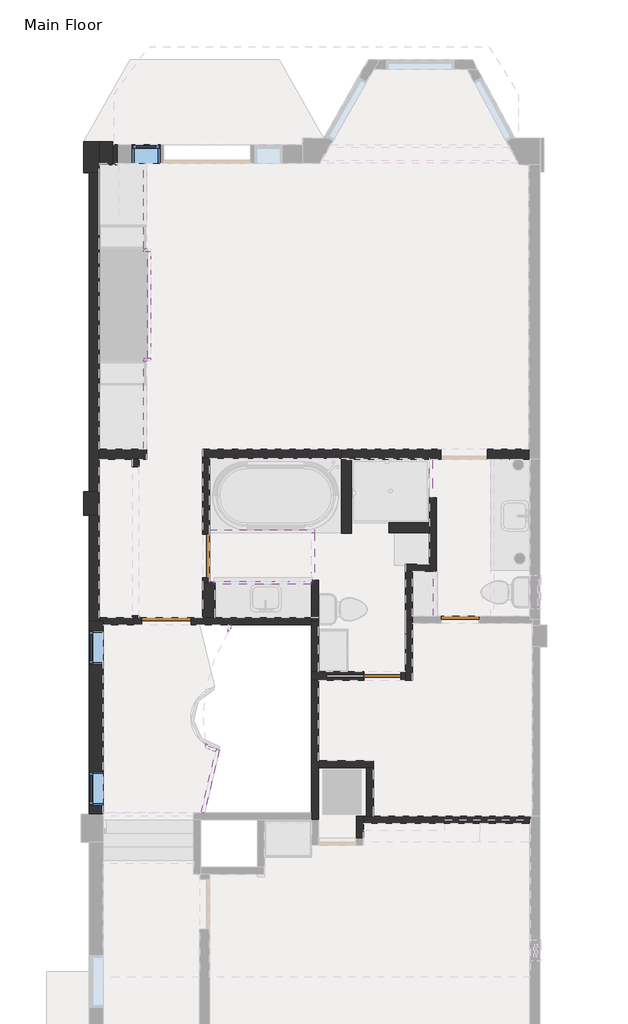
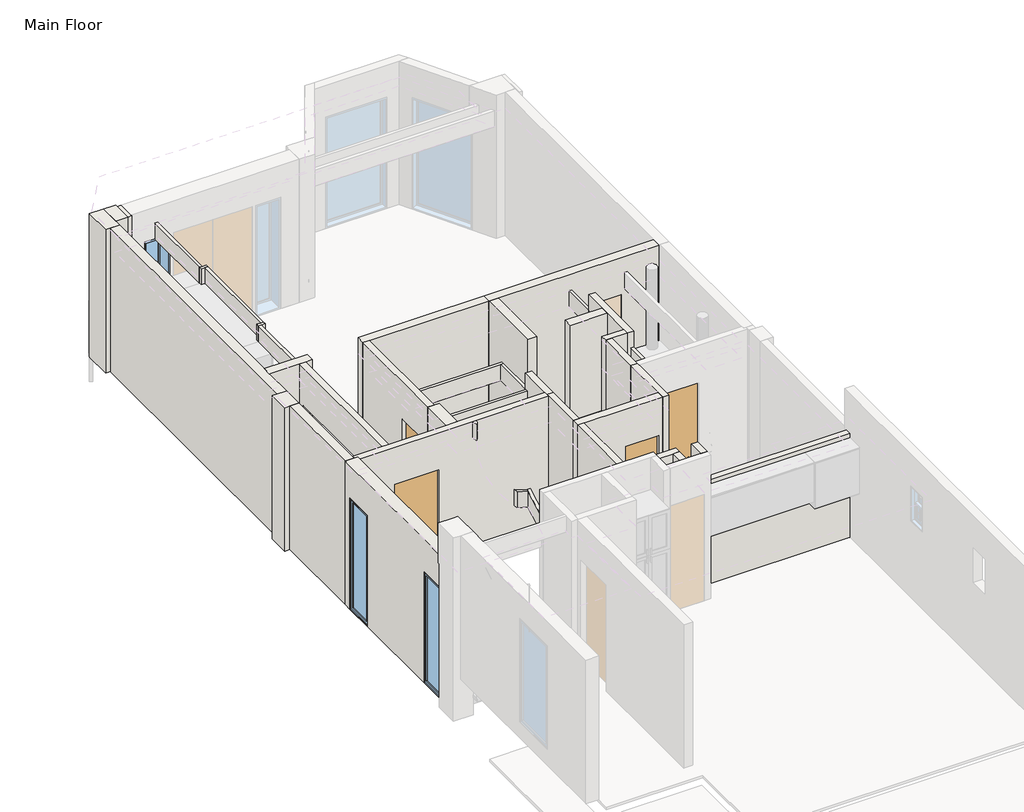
# One storey, part 2 of 4: 41 walls, 4 doors, 3 windows.
"""IFC4 building model written with IfcOpenShell, lengths in millimetres."""

from ifc_helpers import new_model, si_unit, point, frame, frame_2d, origin, origin_with_axes, place, context, project, spatial, polyline, circle_curve, trimmed, segment, composite_curve, outline, extrude, faceted_brep, transform, mapped, element, save
from ifc_brep_helpers import plane_surface, cylinder_surface, revolved_surface, advanced_brep
from components import door_b2eef15f, door_e9feb998, door_2ab74324, door_ba797397, default_1_d99bf27f, default_1_ecde31a0

model = new_model("IFC4")

# Units and contexts
model_context = context("Model", 3, world=origin())
ifc_project = project(units=[si_unit("LENGTHUNIT", "METRE", prefix="MILLI")], contexts=[model_context])

# Site, building, storey
site = spatial("IfcSite", under=ifc_project)
building = spatial("IfcBuilding", under=site)
storey = spatial("IfcBuildingStorey", under=building, Name="Main Floor", Elevation=0.0)

# Doors
placement = place(None, origin())
door_shape = door_b2eef15f(model_context)
element("IfcDoor", 1, ObjectType="Planitar - Single Door_Flush Panel : 2'-0\" x 6'-8\"", at=placement, inside=storey, context=model_context, shape_type="MappedRepresentation", body=[
    mapped(door_shape, transform((-34.925, 6794.5, 0.0), x_axis=(-1.0, 0.0, 0.0), y_axis=(0.0, -1.0, 0.0), z_axis=(0.0, 0.0, 1.0))),
])
door_2_shape = door_e9feb998(model_context)
element("IfcDoor", 2, ObjectType="Planitar - Single Pocket Door : 2'-0\" x 6'-8\"", at=placement, inside=storey, context=model_context, shape_type="MappedRepresentation", body=[
    mapped(door_2_shape, transform((-1308.1, 5873.75, 0.0), x_axis=(-1.0, 0.0, 0.0), y_axis=(0.0, -1.0, 0.0), z_axis=(0.0, 0.0, 1.0))),
])
door_3_shape = door_2ab74324(model_context)
element("IfcDoor", 3, ObjectType="Planitar - Single Door_Flush Panel : 2'-4\" x 6'-8\"", at=placement, inside=storey, context=model_context, shape_type="MappedRepresentation", body=[
    mapped(door_3_shape, transform((-4197.35, 7840.6625, 0.0), x_axis=(0.0, 1.0, 0.0), y_axis=(-1.0, 0.0, 0.0), z_axis=(0.0, 0.0, 1.0))),
])
door_4_shape = door_ba797397(model_context)
element("IfcDoor", 4, ObjectType="Planitar - Single Door_Flush Panel : 2'-8\" x 6'-8\"", at=placement, inside=storey, context=model_context, shape_type="MappedRepresentation", body=[
    mapped(door_4_shape, transform((-4851.4, 6769.1, 0.0), x_axis=(-1.0, 0.0, 0.0), y_axis=(0.0, -1.0, 0.0), z_axis=(0.0, 0.0, 1.0))),
])

# Walls
element("IfcWall", 5, ObjectType="Planitar - Generic 6 1/2\"", at=placement, inside=storey, context=model_context, shape_type="Brep", body=[
    faceted_brep([(-5949.95, 6769.1, 0.0), (-5949.95, 6826.25, 0.0), (-5949.95, 8502.65, 0.0), (-5949.95, 8502.65, 2743.2), (-5949.95, 6826.25, 2743.2), (-5949.95, 6769.1, 2743.2), (-6115.05, 6769.1, 0.0), (-6115.05, 6769.1, 2743.2), (-6115.05, 8502.65, 2743.2), (-6115.05, 8502.65, 0.0)], [[[0, 1, 2, 3, 4, 5]], [[6, 7, 8, 9]], [[2, 1, 0, 6, 9]], [[3, 2, 9, 8]], [[5, 4, 3, 8, 7]], [[0, 5, 7, 6]]]),
])
element("IfcWall", 6, ObjectType="Planitar - Generic 10\"", at=placement, inside=storey, context=model_context, shape_type="Brep", body=[
    faceted_brep([(-5949.95, 14116.05, 0.0), (-5949.95, 14243.05, 0.0), (-5949.95, 14624.05, 0.0), (-5949.95, 14624.05, 2743.2), (-5949.95, 14243.05, 2743.2), (-5949.95, 14116.05, 2743.2), (-6203.95, 14116.05, 0.0), (-6203.95, 14116.05, 2743.2), (-6203.95, 14624.05, 2743.2), (-6203.95, 14624.05, 0.0), (-6115.05, 14116.05, 0.0), (-6115.05, 14116.05, 2743.2)], [[[0, 1, 2, 3, 4, 5]], [[6, 7, 8, 9]], [[2, 1, 0, 10, 6, 9]], [[5, 4, 3, 8, 7, 11]], [[0, 5, 11, 7, 6, 10]], [[3, 2, 9, 8]]]),
])
element("IfcWall", 7, ObjectType="Planitar - Generic 1' - 3\"", at=placement, inside=storey, context=model_context, shape_type="Brep", body=[
    faceted_brep([(-5949.95, 14243.05, 0.0), (-5727.7, 14243.05, 0.0), (-5727.7, 14243.05, 2743.2), (-5949.95, 14243.05, 2743.2), (-5949.95, 14624.05, 0.0), (-5949.95, 14624.05, 2743.2), (-5727.7, 14624.05, 2743.2), (-5727.7, 14624.05, 0.0), (-5727.7, 14573.25, 0.0), (-5727.7, 14573.25, 2743.2)], [[[0, 1, 2, 3]], [[4, 5, 6, 7]], [[1, 0, 4, 7, 8]], [[2, 1, 8, 7, 6, 9]], [[3, 2, 9, 6, 5]], [[0, 3, 5, 4]]]),
])
element("IfcWall", 8, ObjectType="Planitar - Generic 1' - 1\"", at=placement, inside=storey, context=model_context, shape_type="Brep", body=[
    faceted_brep([(-5727.7, 14243.05, 0.0), (-5657.85, 14243.05, 0.0), (-5657.85, 14243.05, 2743.2), (-5727.7, 14243.05, 2743.2), (-5727.7, 14573.25, 0.0), (-5727.7, 14573.25, 2743.2), (-5657.85, 14573.25, 2743.2), (-5657.85, 14573.25, 0.0), (-5657.85, 14268.45, 0.0), (-5657.85, 14268.45, 2743.2)], [[[0, 1, 2, 3]], [[4, 5, 6, 7]], [[1, 0, 4, 7, 8]], [[2, 1, 8, 7, 6, 9]], [[3, 2, 9, 6, 5]], [[0, 3, 5, 4]]]),
])
element("IfcWall", 9, ObjectType="Planitar - Generic 9\"", at=placement, inside=storey, context=model_context, shape_type="Brep", body=[
    faceted_brep([(-5886.45, 6769.1, 0.0), (-5886.45, 6769.1, 2743.2), (-5886.45, 6711.95, 2743.2), (-5886.45, 3638.55, 2743.2), (-5886.45, 3632.2, 2743.2), (-5886.45, 3606.8, 2743.2), (-5886.45, 3581.4, 2743.2), (-5886.45, 3581.4, 2438.4), (-5886.45, 3581.4, 0.0), (-5886.45, 3751.2625, 0.0), (-5886.45, 3751.2625, 2133.6), (-5886.45, 4310.0625, 2133.6), (-5886.45, 4310.0625, 0.0), (-5886.45, 6061.075, 0.0), (-5886.45, 6061.075, 2133.6), (-5886.45, 6619.875, 2133.6), (-5886.45, 6619.875, 0.0), (-5886.45, 6711.95, 0.0), (-6115.05, 6769.1, 2743.2), (-6115.05, 6769.1, 0.0), (-6115.05, 6619.875, 0.0), (-6115.05, 6619.875, 2133.6), (-6115.05, 6061.075, 2133.6), (-6115.05, 6061.075, 0.0), (-6115.05, 4310.0625, 0.0), (-6115.05, 4310.0625, 2133.6), (-6115.05, 3751.2625, 2133.6), (-6115.05, 3751.2625, 0.0), (-6115.05, 3689.35, 0.0), (-6115.05, 3581.4, 0.0), (-6115.05, 3581.4, 2743.2), (-6115.05, 3638.55, 2743.2), (-6115.05, 3752.2546875, 2743.2), (-6115.05, 4311.0546875, 2743.2), (-6115.05, 6048.375, 2743.2), (-6115.05, 6607.175, 2743.2), (-6115.05, 6699.25, 2743.2), (-5949.95, 6769.1, 0.0), (-5949.95, 6769.1, 2743.2)], [[[0, 1, 2, 3, 4, 5, 6, 7, 8, 9, 10, 11, 12, 13, 14, 15, 16, 17]], [[18, 19, 20, 21, 22, 23, 24, 25, 26, 27, 28, 29, 30, 31, 32, 33, 34, 35, 36]], [[8, 29, 28, 27, 9]], [[19, 37, 0, 17, 16, 20]], [[12, 24, 23, 13]], [[1, 0, 37, 19, 18, 38]], [[6, 5, 4, 3, 2, 1, 38, 18, 36, 35, 34, 33, 32, 31, 30]], [[26, 10, 9, 27]], [[10, 26, 25, 11]], [[11, 25, 24, 12]], [[22, 14, 13, 23]], [[14, 22, 21, 15]], [[15, 21, 20, 16]], [[6, 30, 29, 8, 7]]]),
])
element("IfcWall", 10, ObjectType="Planitar - Generic 10\"", at=placement, inside=storey, context=model_context, shape_type="Brep", body=[
    faceted_brep([(-5949.95, 8502.65, 0.0), (-5949.95, 8890.0, 0.0), (-5949.95, 8890.0, 2743.2), (-5949.95, 8502.65, 2743.2), (-6203.95, 8502.65, 0.0), (-6203.95, 8502.65, 2743.2), (-6203.95, 8890.0, 2743.2), (-6203.95, 8890.0, 0.0), (-6115.05, 8502.65, 0.0), (-6115.05, 8890.0, 0.0), (-6115.05, 8890.0, 2743.2), (-6115.05, 8502.65, 2743.2)], [[[0, 1, 2, 3]], [[4, 5, 6, 7]], [[1, 0, 8, 4, 7, 9]], [[2, 1, 9, 7, 6, 10]], [[3, 2, 10, 6, 5, 11]], [[0, 3, 11, 5, 4, 8]]]),
])
element("IfcWall", 11, ObjectType="Planitar - Generic 6 1/2\"", at=placement, inside=storey, context=model_context, shape_type="Brep", body=[
    faceted_brep([(-5949.95, 8890.0, 0.0), (-5949.95, 9423.4, 0.0), (-5949.95, 9588.5, 0.0), (-5949.95, 14116.05, 0.0), (-5949.95, 14116.05, 2743.2), (-5949.95, 9588.5, 2743.2), (-5949.95, 9423.4, 2743.2), (-5949.95, 8890.0, 2743.2), (-6115.05, 8890.0, 0.0), (-6115.05, 8890.0, 2743.2), (-6115.05, 14116.05, 2743.2), (-6115.05, 14116.05, 0.0)], [[[0, 1, 2, 3, 4, 5, 6, 7]], [[8, 9, 10, 11]], [[3, 2, 1, 0, 8, 11]], [[4, 3, 11, 10]], [[7, 6, 5, 4, 10, 9]], [[0, 7, 9, 8]]]),
])
element("IfcWall", 12, ObjectType="Planitar - Generic 6 1/2\"", at=placement, inside=storey, context=model_context, shape_type="Brep", body=[
    faceted_brep([(-1981.2, 9588.5, 2743.2), (1092.2, 9588.5, 2743.2), (1092.2, 9588.5, 0.0), (407.19375, 9588.5, 0.0), (407.19375, 9588.5, 2032.0), (-354.80625, 9588.5, 2032.0), (-354.80625, 9588.5, 0.0), (-1981.2, 9588.5, 0.0), (1092.2, 9423.4, 2743.2), (-1816.1, 9423.4, 2743.2), (-1981.2, 9423.4, 2743.2), (-1981.2, 9423.4, 0.0), (-1816.1, 9423.4, 0.0), (-354.80625, 9423.4, 0.0), (-354.80625, 9423.4, 2032.0), (407.19375, 9423.4, 2032.0), (407.19375, 9423.4, 0.0), (1092.2, 9423.4, 0.0), (-1981.2, 9436.1, 0.0), (-1981.2, 9436.1, 2743.2)], [[[0, 1, 2, 3, 4, 5, 6, 7]], [[8, 9, 10, 11, 12, 13, 14, 15, 16, 17]], [[2, 17, 16, 3]], [[11, 18, 7, 6, 13, 12]], [[1, 0, 19, 10, 9, 8]], [[2, 1, 8, 17]], [[0, 7, 18, 11, 10, 19]], [[5, 14, 13, 6]], [[14, 5, 4, 15]], [[15, 4, 3, 16]]]),
])
element("IfcWall", 13, ObjectType="Planitar - Generic 6 1/2\"", at=placement, inside=storey, context=model_context, shape_type="Brep", body=[
    faceted_brep([(-5175.25, 9588.5, 0.0), (-5949.95, 9588.5, 0.0), (-5949.95, 9588.5, 2743.2), (-5175.25, 9588.5, 2743.2), (-5175.25, 9588.5, 2438.4), (-5175.25, 9588.5, 2133.6), (-5175.25, 9423.4, 0.0), (-5175.25, 9423.4, 2743.2), (-5295.9, 9423.4, 2743.2), (-5410.2, 9423.4, 2743.2), (-5949.95, 9423.4, 2743.2), (-5949.95, 9423.4, 0.0), (-5410.2, 9423.4, 0.0), (-5295.9, 9423.4, 0.0)], [[[0, 1, 2, 3, 4, 5]], [[6, 7, 8, 9, 10, 11, 12, 13]], [[1, 0, 6, 13, 12, 11]], [[3, 2, 10, 9, 8, 7]], [[2, 1, 11, 10]], [[0, 5, 4, 3, 7, 6]]]),
])
element("IfcWall", 14, ObjectType="Planitar - Generic 6\"", at=placement, inside=storey, context=model_context, shape_type="Brep", body=[
    faceted_brep([(-1981.2, 9588.5, 0.0), (-4254.5, 9588.5, 0.0), (-4254.5, 9588.5, 2743.2), (-1981.2, 9588.5, 2743.2), (-1981.2, 9436.1, 0.0), (-1981.2, 9436.1, 2743.2), (-4140.2, 9436.1, 2743.2), (-4254.5, 9436.1, 2743.2), (-4254.5, 9436.1, 0.0), (-4140.2, 9436.1, 0.0)], [[[0, 1, 2, 3]], [[4, 5, 6, 7, 8, 9]], [[1, 0, 4, 9, 8]], [[3, 2, 7, 6, 5]], [[0, 3, 5, 4]], [[2, 1, 8, 7]]]),
])
element("IfcWall", 15, ObjectType="Planitar - Generic 6 1/2\"", at=placement, inside=storey, context=model_context, shape_type="SweptSolid", body=[
    extrude(outline(polyline([(-1981.2, 8210.55), (-1981.2, 9423.4), (-1816.1, 9423.4), (-1816.1, 8210.55), (-1981.2, 8210.55)])), origin_with_axes(), (0.0, 0.0, 1.0), 2743.2),
])
element("IfcWall", 16, ObjectType="Planitar - Generic 6 1/2\"", at=placement, inside=storey, context=model_context, shape_type="SweptSolid", body=[
    extrude(outline(polyline([(-539.75, 8216.9), (-1206.5, 8216.9), (-1206.5, 8382.0), (-539.75, 8382.0), (-539.75, 8216.9)])), origin_with_axes(), (0.0, 0.0, 1.0), 2743.2),
])
element("IfcWall", 17, ObjectType="Planitar - Generic 4 1/2\"", at=placement, inside=storey, context=model_context, shape_type="Brep", body=[
    faceted_brep([(-539.75, 8794.75, 0.0), (-539.75, 8382.0, 0.0), (-539.75, 8216.9, 0.0), (-539.75, 7702.55, 0.0), (-539.75, 7588.25, 0.0), (-539.75, 7588.25, 2743.2), (-539.75, 7702.55, 2743.2), (-539.75, 8216.9, 2743.2), (-539.75, 8382.0, 2743.2), (-539.75, 8794.75, 2743.2), (-539.75, 8794.75, 2438.4), (-539.75, 8794.75, 2133.6), (-425.45, 8794.75, 0.0), (-425.45, 8794.75, 2743.2), (-425.45, 7588.25, 2743.2), (-425.45, 7588.25, 2438.4), (-425.45, 7588.25, 2032.0), (-425.45, 7588.25, 0.0)], [[[0, 1, 2, 3, 4, 5, 6, 7, 8, 9, 10, 11]], [[12, 13, 14, 15, 16, 17]], [[4, 3, 2, 1, 0, 12, 17]], [[9, 8, 7, 6, 5, 14, 13]], [[0, 11, 10, 9, 13, 12]], [[4, 17, 16, 15, 14, 5]]]),
])
element("IfcWall", 18, ObjectType="Planitar - Generic 4 1/2\"", at=placement, inside=storey, context=model_context, shape_type="Brep", body=[
    faceted_brep([(-539.75, 7702.55, 2743.2), (-539.75, 7702.55, 0.0), (-933.45, 7702.55, 0.0), (-933.45, 7702.55, 2743.2), (-539.75, 7588.25, 0.0), (-539.75, 7588.25, 2743.2), (-819.15, 7588.25, 2743.2), (-933.45, 7588.25, 2743.2), (-933.45, 7588.25, 0.0), (-819.15, 7588.25, 0.0)], [[[0, 1, 2, 3]], [[4, 5, 6, 7, 8, 9]], [[2, 1, 4, 9, 8]], [[0, 3, 7, 6, 5]], [[3, 2, 8, 7]], [[0, 5, 4, 1]]]),
])
element("IfcWall", 19, ObjectType="Planitar - Generic 4 1/2\"", at=placement, inside=storey, context=model_context, shape_type="Brep", body=[
    faceted_brep([(-933.45, 7588.25, 0.0), (-933.45, 6794.5, 0.0), (-933.45, 6794.5, 2743.2), (-933.45, 7588.25, 2743.2), (-819.15, 7588.25, 0.0), (-819.15, 7588.25, 2743.2), (-819.15, 6851.65, 2743.2), (-819.15, 6794.5, 2743.2), (-819.15, 6794.5, 0.0), (-819.15, 6851.65, 0.0)], [[[0, 1, 2, 3]], [[4, 5, 6, 7, 8, 9]], [[1, 0, 4, 9, 8]], [[2, 1, 8, 7]], [[3, 2, 7, 6, 5]], [[0, 3, 5, 4]]]),
])
element("IfcWall", 20, ObjectType="Planitar - Generic 5 1/2\"", at=placement, inside=storey, context=model_context, shape_type="Brep", body=[
    faceted_brep([(-2470.15, 5943.6, 2743.2), (-2355.85, 5943.6, 2743.2), (-933.45, 5943.6, 2743.2), (-933.45, 5943.6, 0.0), (-1003.3, 5943.6, 0.0), (-1003.3, 5943.6, 2032.0), (-1612.9, 5943.6, 2032.0), (-1612.9, 5943.6, 0.0), (-2355.85, 5943.6, 0.0), (-2470.15, 5943.6, 0.0), (-933.45, 5803.9, 2743.2), (-2355.85, 5803.9, 2743.2), (-2470.15, 5803.9, 2743.2), (-2470.15, 5803.9, 0.0), (-2355.85, 5803.9, 0.0), (-1612.9, 5803.9, 0.0), (-1612.9, 5803.9, 2032.0), (-1003.3, 5803.9, 2032.0), (-1003.3, 5803.9, 0.0), (-933.45, 5803.9, 0.0), (-1612.9, 5894.425, 0.0), (-2222.5, 5894.425, 0.0), (-2222.5, 5853.075, 0.0), (-1612.9, 5853.075, 0.0), (-2222.5, 5853.075, 2032.0), (-2222.5, 5894.425, 2032.0), (-1612.9, 5894.425, 2032.0), (-1612.9, 5853.075, 2032.0)], [[[0, 1, 2, 3, 4, 5, 6, 7, 8, 9]], [[10, 11, 12, 13, 14, 15, 16, 17, 18, 19]], [[3, 19, 18, 4]], [[13, 9, 8, 7, 20, 21, 22, 23, 15, 14]], [[2, 1, 0, 12, 11, 10]], [[3, 2, 10, 19]], [[0, 9, 13, 12]], [[24, 25, 26, 6, 5, 17, 16, 27]], [[24, 27, 23, 22]], [[27, 16, 15, 23]], [[17, 5, 4, 18]], [[6, 26, 20, 7]], [[26, 25, 21, 20]], [[25, 24, 22, 21]]]),
])
element("IfcWall", 21, ObjectType="Planitar - Generic 4 1/2\"", at=placement, inside=storey, context=model_context, shape_type="Brep", body=[
    faceted_brep([(-2355.85, 5943.6, 0.0), (-2355.85, 6769.1, 0.0), (-2355.85, 6769.1, 2743.2), (-2355.85, 5943.6, 2743.2), (-2470.15, 5943.6, 0.0), (-2470.15, 5943.6, 2743.2), (-2470.15, 6711.95, 2743.2), (-2470.15, 6769.1, 2743.2), (-2470.15, 6769.1, 0.0), (-2470.15, 6711.95, 0.0)], [[[0, 1, 2, 3]], [[4, 5, 6, 7, 8, 9]], [[1, 0, 4, 9, 8]], [[2, 1, 8, 7]], [[3, 2, 7, 6, 5]], [[0, 3, 5, 4]]]),
])
element("IfcWall", 22, ObjectType="Planitar - Generic 4 1/2\"", at=placement, inside=storey, context=model_context, shape_type="Brep", body=[
    faceted_brep([(-2470.15, 5803.9, 0.0), (-2470.15, 3632.2, 0.0), (-2470.15, 3517.9, 0.0), (-2470.15, 3517.9, 317.5), (-2470.15, 3517.9, 2743.2), (-2470.15, 3632.2, 2743.2), (-2470.15, 5803.9, 2743.2), (-2355.85, 5803.9, 0.0), (-2355.85, 5803.9, 2743.2), (-2355.85, 4489.45, 2743.2), (-2355.85, 4375.15, 2743.2), (-2355.85, 3632.2, 2743.2), (-2355.85, 3517.9, 2743.2), (-2355.85, 3517.9, 317.5), (-2355.85, 3517.9, 0.0), (-2355.85, 4375.15, 0.0), (-2355.85, 4489.45, 0.0), (-2457.45, 3517.9, 0.0)], [[[0, 1, 2, 3, 4, 5, 6]], [[7, 8, 9, 10, 11, 12, 13, 14, 15, 16]], [[2, 1, 0, 7, 16, 15, 14, 17]], [[6, 5, 4, 12, 11, 10, 9, 8]], [[0, 6, 8, 7]], [[2, 17, 14, 13, 12, 4, 3]]]),
])
element("IfcWall", 23, ObjectType="Planitar - Generic 4 1/2\"", at=placement, inside=storey, context=model_context, shape_type="Brep", body=[
    faceted_brep([(-1619.25, 3219.45, 419.1), (-1619.25, 3581.4, 419.1), (-1619.25, 3581.4, 2743.2), (-1619.25, 3517.9, 2743.2), (-1619.25, 3517.9, 2883.7), (-1619.25, 3517.9, 3505.2), (-1619.25, 3219.45, 3505.2), (-1733.55, 3219.45, 419.1), (-1733.55, 3219.45, 3505.2), (-1733.55, 3517.9, 3505.2), (-1733.55, 3517.9, 2743.2), (-1733.55, 3581.4, 2743.2), (-1733.55, 3581.4, 419.1)], [[[0, 1, 2, 3, 4, 5, 6]], [[7, 8, 9, 10, 11, 12]], [[1, 0, 7, 12]], [[6, 5, 9, 8]], [[0, 6, 8, 7]], [[2, 1, 12, 11]], [[3, 10, 9, 5, 4]], [[10, 3, 2, 11]]]),
])
element("IfcWall", 24, ObjectType="Planitar - Generic 4 1/2\"", at=placement, inside=storey, context=model_context, shape_type="Brep", body=[
    faceted_brep([(-1619.25, 3467.1, 0.0), (-1263.65, 3467.1, 0.0), (-1149.35, 3467.1, 0.0), (952.5, 3467.1, 0.0), (1270.0, 3467.1, 0.0), (1270.0, 3467.1, 762.0), (1104.9, 3467.1, 762.0), (1104.9, 3467.1, 2743.2), (-1619.25, 3467.1, 2743.2), (-1619.25, 3581.4, 0.0), (-1619.25, 3581.4, 419.1), (-1619.25, 3581.4, 2743.2), (-1568.45, 3581.4, 2743.2), (-1454.15, 3581.4, 2743.2), (1104.9, 3581.4, 2743.2), (1104.9, 3581.4, 762.0), (1270.0, 3581.4, 762.0), (1270.0, 3581.4, 0.0), (1143.0, 3581.4, 0.0), (-1149.35, 3581.4, 0.0), (-1263.65, 3581.4, 0.0), (-1454.15, 3581.4, 0.0), (-1568.45, 3581.4, 0.0), (1270.0, 3524.25, 0.0), (1104.9, 3517.9, 2743.2), (-1619.25, 3517.9, 2743.2)], [[[0, 1, 2, 3, 4, 5, 6, 7, 8]], [[9, 10, 11, 12, 13, 14, 15, 16, 17, 18, 19, 20, 21, 22]], [[4, 3, 2, 1, 0, 9, 22, 21, 20, 19, 18, 17, 23]], [[8, 7, 24, 14, 13, 12, 11, 25]], [[5, 4, 23, 17, 16]], [[7, 6, 15, 14, 24]], [[0, 8, 25, 11, 10, 9]], [[15, 6, 5, 16]]]),
])
element("IfcWall", 25, ObjectType="Planitar - Generic 4 1/2\"", at=placement, inside=storey, context=model_context, shape_type="Brep", body=[
    faceted_brep([(-2355.85, 4375.15, 0.0), (-1568.45, 4375.15, 0.0), (-1454.15, 4375.15, 0.0), (-1454.15, 4375.15, 2743.2), (-1568.45, 4375.15, 2743.2), (-2355.85, 4375.15, 2743.2), (-2355.85, 4489.45, 0.0), (-2355.85, 4489.45, 2743.2), (-1454.15, 4489.45, 2743.2), (-1454.15, 4489.45, 0.0)], [[[0, 1, 2, 3, 4, 5]], [[6, 7, 8, 9]], [[2, 1, 0, 6, 9]], [[5, 4, 3, 8, 7]], [[0, 5, 7, 6]], [[3, 2, 9, 8]]]),
])
element("IfcWall", 26, ObjectType="Planitar - Generic 4 1/2\"", at=placement, inside=storey, context=model_context, shape_type="SweptSolid", body=[
    extrude(outline(polyline([(-1568.45, 3581.4), (-1568.45, 4375.15), (-1454.15, 4375.15), (-1454.15, 3581.4), (-1568.45, 3581.4)])), origin_with_axes(), (0.0, 0.0, 1.0), 2743.2),
])
element("IfcWall", 27, ObjectType="Planitar - Generic 4 1/2\"", at=placement, inside=storey, context=model_context, shape_type="Brep", body=[
    faceted_brep([(-2470.15, 6711.95, 2743.2), (-3790.95, 6711.95, 2743.2), (-3841.75, 6711.95, 2743.2), (-5886.45, 6711.95, 2743.2), (-5886.45, 6711.95, 0.0), (-5257.8, 6711.95, 0.0), (-5257.8, 6711.95, 2032.0), (-4445.0, 6711.95, 2032.0), (-4445.0, 6711.95, 0.0), (-2470.15, 6711.95, 0.0), (-5949.95, 6826.25, 2743.2), (-5410.2, 6826.25, 2743.2), (-5295.9, 6826.25, 2743.2), (-4254.5, 6826.25, 2743.2), (-4051.3, 6826.25, 2743.2), (-2470.15, 6826.25, 2743.2), (-2470.15, 6826.25, 0.0), (-4051.3, 6826.25, 0.0), (-4254.5, 6826.25, 0.0), (-4445.0, 6826.25, 0.0), (-4445.0, 6826.25, 2032.0), (-5257.8, 6826.25, 2032.0), (-5257.8, 6826.25, 0.0), (-5295.9, 6826.25, 0.0), (-5410.2, 6826.25, 0.0), (-5949.95, 6826.25, 0.0), (-5886.45, 6769.1, 0.0), (-5949.95, 6769.1, 0.0), (-2470.15, 6769.1, 0.0), (-2470.15, 6769.1, 2743.2), (-5949.95, 6769.1, 2743.2), (-5886.45, 6769.1, 2743.2)], [[[0, 1, 2, 3, 4, 5, 6, 7, 8, 9]], [[10, 11, 12, 13, 14, 15, 16, 17, 18, 19, 20, 21, 22, 23, 24, 25]], [[4, 26, 27, 25, 24, 23, 22, 5]], [[16, 28, 9, 8, 19, 18, 17]], [[3, 2, 1, 0, 29, 15, 14, 13, 12, 11, 10, 30, 31]], [[4, 3, 31, 26]], [[31, 30, 27, 26]], [[10, 25, 27, 30]], [[0, 9, 28, 16, 15, 29]], [[21, 6, 5, 22]], [[6, 21, 20, 7]], [[7, 20, 19, 8]]]),
])
element("IfcWall", 28, ObjectType="Planitar - Generic 4 1/2\"", at=placement, inside=storey, context=model_context, shape_type="Brep", body=[
    faceted_brep([(-4254.5, 7397.75, 2743.2), (-4254.5, 9436.1, 2743.2), (-4254.5, 9436.1, 0.0), (-4254.5, 8196.2625, 0.0), (-4254.5, 8196.2625, 2032.0), (-4254.5, 7485.0625, 2032.0), (-4254.5, 7485.0625, 0.0), (-4254.5, 7397.75, 0.0), (-4140.2, 9436.1, 2743.2), (-4140.2, 7397.75, 2743.2), (-4140.2, 7397.75, 2438.4), (-4140.2, 7397.75, 2133.6), (-4140.2, 7397.75, 0.0), (-4140.2, 7485.0625, 0.0), (-4140.2, 7485.0625, 2032.0), (-4140.2, 8196.2625, 2032.0), (-4140.2, 8196.2625, 0.0), (-4140.2, 9436.1, 0.0)], [[[0, 1, 2, 3, 4, 5, 6, 7]], [[8, 9, 10, 11, 12, 13, 14, 15, 16, 17]], [[2, 17, 16, 3]], [[12, 7, 6, 13]], [[1, 0, 9, 8]], [[2, 1, 8, 17]], [[15, 4, 3, 16]], [[4, 15, 14, 5]], [[5, 14, 13, 6]], [[7, 12, 11, 10, 9, 0]]]),
])
element("IfcWall", 29, ObjectType="Planitar - Generic 4 1/2\"", at=placement, inside=storey, context=model_context, shape_type="SweptSolid", body=[
    extrude(outline(polyline([(6826.25, 2743.2), (9423.4, 2743.2), (9423.4, 0.0), (9296.4, 0.0), (9296.4, 2032.0), (6858.0, 2032.0), (6858.0, 0.0), (6826.25, 0.0), (6826.25, 2743.2)])), frame((-5410.2, 0.0, 0.0), z_axis=(1.0, 0.0, 0.0), x_axis=(0.0, 1.0, 0.0)), (0.0, 0.0, 1.0), 114.3),
])
element("IfcWall", 30, ObjectType="Planitar - Generic 8\"", at=placement, inside=storey, context=model_context, shape_type="Brep", body=[
    faceted_brep([(-4254.5, 7397.75, 2743.2), (-4254.5, 7397.75, 0.0), (-4254.5, 6826.25, 0.0), (-4254.5, 6826.25, 2743.2), (-4051.3, 7397.75, 0.0), (-4051.3, 7397.75, 2133.6), (-4051.3, 7397.75, 2438.4), (-4051.3, 7397.75, 2743.2), (-4051.3, 6826.25, 2743.2), (-4051.3, 6826.25, 0.0), (-4140.2, 7397.75, 0.0), (-4140.2, 7397.75, 2743.2)], [[[0, 1, 2, 3]], [[4, 5, 6, 7, 8, 9]], [[2, 1, 10, 4, 9]], [[0, 3, 8, 7, 11]], [[3, 2, 9, 8]], [[0, 11, 7, 6, 5, 4, 10, 1]]]),
])
element("IfcWall", 31, ObjectType="Planitar - Generic 4 1/2\"", at=placement, inside=storey, context=model_context, shape_type="Brep", body=[
    faceted_brep([(-2355.85, 6769.1, 0.0), (-2355.85, 7442.2, 0.0), (-2355.85, 7442.2, 2743.2), (-2355.85, 6769.1, 2743.2), (-2470.15, 6769.1, 0.0), (-2470.15, 6769.1, 2743.2), (-2470.15, 6826.25, 2743.2), (-2470.15, 7442.2, 2743.2), (-2470.15, 7442.2, 2438.4), (-2470.15, 7442.2, 2133.6), (-2470.15, 7442.2, 0.0), (-2470.15, 6826.25, 0.0)], [[[0, 1, 2, 3]], [[4, 5, 6, 7, 8, 9, 10, 11]], [[1, 0, 4, 11, 10]], [[2, 1, 10, 9, 8, 7]], [[3, 2, 7, 6, 5]], [[0, 3, 5, 4]]]),
])
element("IfcWall", 32, ObjectType="Planitar - Generic 4 1/2\"", at=placement, inside=storey, context=model_context, shape_type="Brep", body=[
    faceted_brep([(-933.45, 6794.5, 0.0), (-933.45, 5943.6, 0.0), (-933.45, 5803.9, 0.0), (-933.45, 5803.9, 2743.2), (-933.45, 5943.6, 2743.2), (-933.45, 6794.5, 2743.2), (-819.15, 6794.5, 0.0), (-819.15, 6794.5, 2743.2), (-819.15, 6737.35, 2743.2), (-819.15, 5803.9, 2743.2), (-819.15, 5803.9, 0.0), (-819.15, 6737.35, 0.0)], [[[0, 1, 2, 3, 4, 5]], [[6, 7, 8, 9, 10, 11]], [[2, 1, 0, 6, 11, 10]], [[5, 4, 3, 9, 8, 7]], [[0, 5, 7, 6]], [[3, 2, 10, 9]]]),
])
element("IfcWall", 33, ObjectType="Planitar - Generic 2\"", at=placement, inside=storey, context=model_context, shape_type="AdvancedBrep", body=[
    advanced_brep(
    [(-4228.0305152, 3632.2, 2438.4), (-3983.2523, 4669.5507, 2438.4), (-3983.2523, 4669.5507, 2743.2), (-4228.0305152, 3632.2, 2743.2), (-4280.2256147, 3632.2, 2438.4), (-4280.2256147, 3632.2, 2743.2), (-4044.8755511, 4629.5949397, 2743.2), (-4033.2082227, 4679.040154, 2743.2), (-4033.2082227, 4679.040154, 2438.4), (-4044.8755511, 4629.5949397, 2438.4)],
    [
        (0, 1),
        (1, 2),
        (2, 3),
        (3, 0),
        (4, 5),
        (5, 6),
        (6, 7),
        (7, 8),
        (8, 9),
        (9, 4),
        (0, 4),
        (8, 1, circle_curve(frame((-3923.0824091, 5122.5445613, 2438.4), z_axis=(0.0, 0.0, 1.0), x_axis=(1.0, 0.0, 0.0)), 456.9724872)),
        (2, 7, circle_curve(frame((-3923.0824091, 5122.5445613, 2743.2), z_axis=(0.0, 0.0, -1.0), x_axis=(1.0, 0.0, 0.0)), 456.9724872)),
        (5, 3),
    ],
    [
        plane_surface(frame((-4228.0305152, 3632.2, 2438.4), z_axis=(0.9732714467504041, -0.22965776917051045, 0.0), x_axis=(0.22965776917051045, 0.9732714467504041, 0.0))),
        plane_surface(frame((-4277.4727047, 3643.8666147, 2438.4), z_axis=(-0.9732714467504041, 0.22965776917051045, 0.0), x_axis=(-0.22965776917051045, -0.9732714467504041, 0.0))),
        plane_surface(frame((-4242.8923565, 3569.2166927, 2438.4), z_axis=(0.0, 0.0, -1.0000000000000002), x_axis=(-0.9732714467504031, 0.2296577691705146, 0.0))),
        plane_surface(frame((-3989.5105266, 4643.0288312, 2743.2), z_axis=(0.0, 0.0, 1.0000000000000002), x_axis=(-0.9732714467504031, 0.2296577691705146, 0.0))),
        plane_surface(frame((-2474.0420728, 3632.2, 0.0), z_axis=(0.0, -1.0, 0.0), x_axis=(-1.0, 0.0, 0.0))),
        revolved_surface(polyline([(-3466.1099219, 5122.5445613, 2438.4), (-3466.1099219, 5122.5445613, 2743.2)]), (-3923.0824091, 5122.5445613, 2438.4), (0.0, 0.0, -1.0)),
    ],
    [
        (0, [[1, 2, 3, 4]]),
        (1, [[5, 6, 7, 8, 9, 10]]),
        (2, [[-1, 11, -10, -9, 12]]),
        (3, [[-3, 13, -7, -6, 14]]),
        (4, [[-4, -14, -5, -11]]),
        (5, [[-2, -12, -8, -13]]),
    ],
),
])
element("IfcWall", 34, ObjectType="Planitar - Generic 2\"", at=placement, inside=storey, context=model_context, shape_type="AdvancedBrep", body=[
    advanced_brep(
    [(-4201.3157051, 4697.7868282, 2743.2), (-4044.8755511, 4629.5949397, 2743.2), (-4033.2082227, 4679.040154, 2743.2), (-4155.6528798, 4729.1813623, 2743.2), (-4214.6439738, 4770.6699983, 2743.2), (-4201.3157051, 4697.7868282, 2438.4), (-4214.6439738, 4770.6699983, 2438.4), (-4155.6528798, 4729.1813623, 2438.4), (-4033.2082227, 4679.040154, 2438.4), (-4044.8755511, 4629.5949397, 2438.4)],
    [
        (0, 1, circle_curve(frame((-3923.0824091, 5122.5445613, 2743.2), z_axis=(0.0, 0.0, 1.0), x_axis=(1.0, 0.0, 0.0)), 507.7724872)),
        (1, 2),
        (2, 3, circle_curve(frame((-3923.0824091, 5122.5445613, 2743.2), z_axis=(0.0, 0.0, -1.0), x_axis=(1.0, 0.0, 0.0)), 456.9724872)),
        (3, 4, circle_curve(frame((-3923.0824091, 5122.5445613, 2743.2), z_axis=(0.0, 0.0, -1.0), x_axis=(1.0, 0.0, 0.0)), 456.9722421)),
        (4, 0, circle_curve(frame((-1676.1882666, 5197.2214255, 2743.2), z_axis=(0.0, 0.0, 1.0), x_axis=(1.0, 0.0, 0.0)), 2574.0441911)),
        (5, 6, circle_curve(frame((-1676.1882666, 5197.2214255, 2438.4), z_axis=(0.0, 0.0, -1.0), x_axis=(1.0, 0.0, 0.0)), 2574.0441911)),
        (6, 7, circle_curve(frame((-3923.0824091, 5122.5445613, 2438.4), z_axis=(0.0, 0.0, 1.0), x_axis=(1.0, 0.0, 0.0)), 456.9724872)),
        (7, 8, circle_curve(frame((-3923.0824091, 5122.5445613, 2438.4), z_axis=(0.0, 0.0, 1.0), x_axis=(1.0, 0.0, 0.0)), 456.9722421)),
        (8, 9),
        (9, 5, circle_curve(frame((-3923.0824091, 5122.5445613, 2438.4), z_axis=(0.0, 0.0, -1.0), x_axis=(1.0, 0.0, 0.0)), 507.7724872)),
        (0, 5),
        (9, 1),
        (2, 8),
        (6, 4),
    ],
    [
        plane_surface(frame((-3415.3099219, 5122.5445613, 2743.2), z_axis=(0.0, 0.0, 1.0), x_axis=(0.0, 1.0, 0.0))),
        plane_surface(frame((-3415.3099219, 5122.5445613, 2438.4), z_axis=(0.0, 0.0, -1.0), x_axis=(0.0, -1.0, 0.0))),
        cylinder_surface(frame((-3923.0824091, 5122.5445613, 2438.4), z_axis=(0.0, 0.0, 1.0), x_axis=(1.0, 0.0, 0.0)), 507.7724872),
        revolved_surface(polyline([(-3466.1099219, 5122.5445613, 2438.4), (-3466.1099219, 5122.5445613, 2743.2)]), (-3923.0824091, 5122.5445613, 2438.4), (0.0, 0.0, -1.0)),
        plane_surface(frame((-4277.4727047, 3643.8666147, 2438.4), z_axis=(0.9732714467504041, -0.22965776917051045, 0.0), x_axis=(-0.22965776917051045, -0.9732714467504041, 0.0))),
        cylinder_surface(frame((-1676.1882666, 5197.2214255, 2438.4), z_axis=(0.0, 0.0, 1.0), x_axis=(1.0, 0.0, 0.0)), 2574.0441911),
    ],
    [
        (0, [[1, 2, 3, 4, 5]]),
        (1, [[6, 7, 8, 9, 10]]),
        (2, [[-1, 11, -10, 12]]),
        (3, [[-4, -3, 13, -8, -7, 14]]),
        (4, [[-2, -12, -9, -13]]),
        (5, [[-5, -14, -6, -11]]),
    ],
),
])
element("IfcWall", 35, ObjectType="Planitar - Generic 2\"", at=placement, inside=storey, context=model_context, shape_type="SweptSolid", body=[
    extrude(outline(composite_curve([segment(polyline([(-3790.95, 6711.95), (-3790.95, 6664.6975952)]), True, "CONTINUOUS"), segment(trimmed(circle_curve(frame_2d((-1676.1882666, 5197.2214255)), 2574.0441911), [point((-3790.95, 6664.6975952))], [point((-3841.75, 6588.6400816))], True, "CARTESIAN"), True, "CONTINUOUS"), segment(polyline([(-3841.75, 6588.6400816), (-3841.75, 6711.95), (-3790.95, 6711.95)]), True, "CONTINUOUS")], self_intersect=False)), frame((0.0, 0.0, 2438.4), z_axis=(0.0, 0.0, 1.0), x_axis=(1.0, 0.0, 0.0)), (0.0, 0.0, 1.0), 304.8),
])
element("IfcWall", 36, ObjectType="Planitar - Generic 2\"", at=placement, inside=storey, context=model_context, shape_type="SweptSolid", body=[
    extrude(outline(polyline([(-5226.05, 12871.45), (-5226.05, 14268.45), (-5175.25, 14268.45), (-5175.25, 12871.45), (-5226.05, 12871.45)])), frame((0.0, 0.0, 2133.6), z_axis=(0.0, 0.0, 1.0), x_axis=(1.0, 0.0, 0.0)), (0.0, 0.0, 1.0), 304.8),
])
element("IfcWall", 37, ObjectType="Planitar - Generic 2\"", at=placement, inside=storey, context=model_context, shape_type="Brep", body=[
    faceted_brep([(-5226.05, 12820.65, 2133.6), (-5156.2, 12820.65, 2133.6), (-5105.4, 12820.65, 2133.6), (-5105.4, 12820.65, 2438.4), (-5156.2, 12820.65, 2438.4), (-5226.05, 12820.65, 2438.4), (-5226.05, 12871.45, 2133.6), (-5226.05, 12871.45, 2438.4), (-5175.25, 12871.45, 2438.4), (-5105.4, 12871.45, 2438.4), (-5105.4, 12871.45, 2133.6), (-5175.25, 12871.45, 2133.6)], [[[0, 1, 2, 3, 4, 5]], [[6, 7, 8, 9, 10, 11]], [[2, 1, 0, 6, 11, 10]], [[5, 4, 3, 9, 8, 7]], [[0, 5, 7, 6]], [[3, 2, 10, 9]]]),
])
element("IfcWall", 38, ObjectType="Planitar - Generic 2\"", at=placement, inside=storey, context=model_context, shape_type="SweptSolid", body=[
    extrude(outline(polyline([(-5156.2, 11074.4), (-5156.2, 12820.65), (-5105.4, 12820.65), (-5105.4, 11074.4), (-5156.2, 11074.4)])), frame((0.0, 0.0, 2133.6), z_axis=(0.0, 0.0, 1.0), x_axis=(1.0, 0.0, 0.0)), (0.0, 0.0, 1.0), 304.8),
])
element("IfcWall", 39, ObjectType="Planitar - Generic 2\"", at=placement, inside=storey, context=model_context, shape_type="Brep", body=[
    faceted_brep([(-5105.4, 11074.4, 2133.6), (-5156.2, 11074.4, 2133.6), (-5226.05, 11074.4, 2133.6), (-5226.05, 11074.4, 2438.4), (-5156.2, 11074.4, 2438.4), (-5105.4, 11074.4, 2438.4), (-5105.4, 11023.6, 2133.6), (-5105.4, 11023.6, 2438.4), (-5175.25, 11023.6, 2438.4), (-5226.05, 11023.6, 2438.4), (-5226.05, 11023.6, 2133.6), (-5175.25, 11023.6, 2133.6)], [[[0, 1, 2, 3, 4, 5]], [[6, 7, 8, 9, 10, 11]], [[2, 1, 0, 6, 11, 10]], [[5, 4, 3, 9, 8, 7]], [[0, 5, 7, 6]], [[3, 2, 10, 9]]]),
])
element("IfcWall", 40, ObjectType="Planitar - Generic 2\"", at=placement, inside=storey, context=model_context, shape_type="SweptSolid", body=[
    extrude(outline(polyline([(-5226.05, 9588.5), (-5226.05, 11023.6), (-5175.25, 11023.6), (-5175.25, 9588.5), (-5226.05, 9588.5)])), frame((0.0, 0.0, 2133.6), z_axis=(0.0, 0.0, 1.0), x_axis=(1.0, 0.0, 0.0)), (0.0, 0.0, 1.0), 304.8),
])
element("IfcWall", 41, ObjectType="Planitar - Generic 2\"", at=placement, inside=storey, context=model_context, shape_type="SweptSolid", body=[
    extrude(outline(polyline([(-476.25, 6851.65), (-476.25, 7588.25), (-425.45, 7588.25), (-425.45, 6851.65), (-476.25, 6851.65)])), frame((0.0, 0.0, 2032.0), z_axis=(0.0, 0.0, 1.0), x_axis=(1.0, 0.0, 0.0)), (0.0, 0.0, 1.0), 406.4),
])
element("IfcWall", 42, ObjectType="Planitar - Generic 2\"", at=placement, inside=storey, context=model_context, shape_type="Brep", body=[
    faceted_brep([(-4140.2, 8216.9, 2133.6), (-2470.15, 8216.9, 2133.6), (-2419.35, 8216.9, 2133.6), (-2419.35, 8216.9, 2438.4), (-2470.15, 8216.9, 2438.4), (-4140.2, 8216.9, 2438.4), (-4140.2, 8267.7, 2133.6), (-4140.2, 8267.7, 2438.4), (-2419.35, 8267.7, 2438.4), (-2419.35, 8267.7, 2133.6)], [[[0, 1, 2, 3, 4, 5]], [[6, 7, 8, 9]], [[2, 1, 0, 6, 9]], [[5, 4, 3, 8, 7]], [[0, 5, 7, 6]], [[3, 2, 9, 8]]]),
])
element("IfcWall", 43, ObjectType="Planitar - Generic 2\"", at=placement, inside=storey, context=model_context, shape_type="SweptSolid", body=[
    extrude(outline(polyline([(-2470.15, 7442.2), (-2470.15, 8216.9), (-2419.35, 8216.9), (-2419.35, 7442.2), (-2470.15, 7442.2)])), frame((0.0, 0.0, 2133.6), z_axis=(0.0, 0.0, 1.0), x_axis=(1.0, 0.0, 0.0)), (0.0, 0.0, 1.0), 304.8),
])
element("IfcWall", 44, ObjectType="Planitar - Generic 2\"", at=placement, inside=storey, context=model_context, shape_type="SweptSolid", body=[
    extrude(outline(polyline([(-2470.15, 7372.35), (-4051.3, 7372.35), (-4051.3, 7397.75), (-4140.2, 7397.75), (-4140.2, 7423.15), (-2470.15, 7423.15), (-2470.15, 7372.35)])), frame((0.0, 0.0, 2133.6), z_axis=(0.0, 0.0, 1.0), x_axis=(1.0, 0.0, 0.0)), (0.0, 0.0, 1.0), 304.8),
])
element("IfcWall", 45, ObjectType="Planitar - Generic 2\"", at=placement, inside=storey, context=model_context, shape_type="SweptSolid", body=[
    extrude(outline(polyline([(-539.75, 8794.75), (-539.75, 9423.4), (-488.95, 9423.4), (-488.95, 8794.75), (-539.75, 8794.75)])), frame((0.0, 0.0, 2133.6), z_axis=(0.0, 0.0, 1.0), x_axis=(1.0, 0.0, 0.0)), (0.0, 0.0, 1.0), 304.8),
])

# Windows
default_1_shape = default_1_d99bf27f(model_context)
element("IfcWindow", 46, ObjectType="Planitar-Fixed : Default 1", at=placement, inside=storey, context=model_context, shape_type="MappedRepresentation", body=[
    mapped(default_1_shape, transform((-5987.75, 4030.6625, -914.4), x_axis=(0.0, 1.0, 0.0), y_axis=(-1.0, 0.0, 0.0), z_axis=(0.0, 0.0, 1.0))),
])
element("IfcWindow", 47, ObjectType="Planitar-Fixed : Default 1", at=placement, inside=storey, context=model_context, shape_type="MappedRepresentation", body=[
    mapped(default_1_shape, transform((-5987.75, 6340.475, -914.4), x_axis=(0.0, 1.0, 0.0), y_axis=(-1.0, 0.0, 0.0), z_axis=(0.0, 0.0, 1.0))),
])
default_1_2_shape = default_1_ecde31a0(model_context)
element("IfcWindow", 48, ObjectType="Planitar-Fixed : Default 1", at=placement, inside=storey, context=model_context, shape_type="MappedRepresentation", body=[
    mapped(default_1_2_shape, transform((-5181.6, 14407.85, -914.4), x_axis=(1.0, 0.0, 0.0), y_axis=(0.0, 1.0, 0.0), z_axis=(0.0, 0.0, 1.0))),
])

save(model, "model.ifc")
